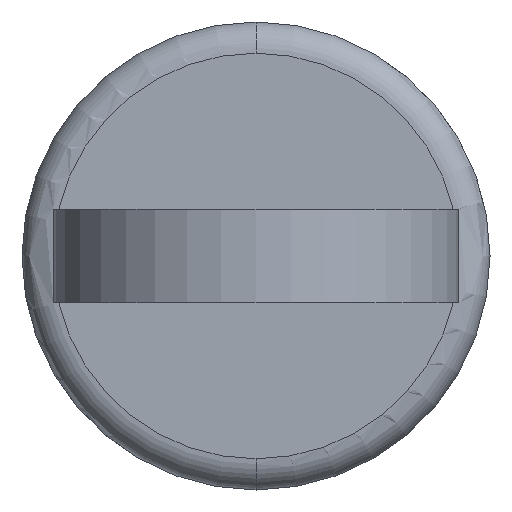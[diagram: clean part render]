
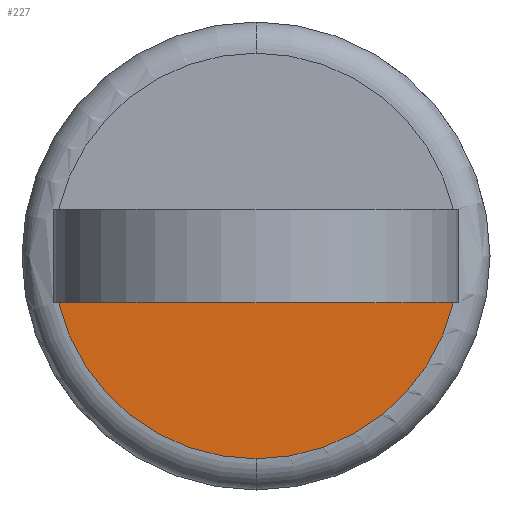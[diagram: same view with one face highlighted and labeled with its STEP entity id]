
A CAD part, front view. The second image highlights one B-rep face of the part: STEP entity #227.
In plain terms, the highlighted planar face has unit normal (0, -1, 0).
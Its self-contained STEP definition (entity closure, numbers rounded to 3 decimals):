
#22 = EDGE_CURVE ( 'NONE', #568, #260, #214, .T. ) ;
#41 = CARTESIAN_POINT ( 'NONE',  ( -6.5, 11., -1.5 ) ) ;
#43 = CARTESIAN_POINT ( 'NONE',  ( 0., 11., 0. ) ) ;
#88 = VERTEX_POINT ( 'NONE', #552 ) ;
#110 = EDGE_LOOP ( 'NONE', ( #447, #437, #394 ) ) ;
#134 = CARTESIAN_POINT ( 'NONE',  ( -6.325, 11., -1.5 ) ) ;
#214 = CIRCLE ( 'NONE', #838, 6.5 ) ;
#227 = ADVANCED_FACE ( 'NONE', ( #916 ), #745, .F. ) ;
#260 = VERTEX_POINT ( 'NONE', #476 ) ;
#273 = AXIS2_PLACEMENT_3D ( 'NONE', #43, #753, #353 ) ;
#298 = DIRECTION ( 'NONE',  ( 0., 0., 1. ) ) ;
#332 = DIRECTION ( 'NONE',  ( 0., -1., 0. ) ) ;
#353 = DIRECTION ( 'NONE',  ( 0., 0., 1. ) ) ;
#369 = EDGE_CURVE ( 'NONE', #260, #88, #518, .T. ) ;
#371 = DIRECTION ( 'NONE',  ( -1., 0., 0. ) ) ;
#394 = ORIENTED_EDGE ( 'NONE', *, *, #369, .T. ) ;
#437 = ORIENTED_EDGE ( 'NONE', *, *, #22, .T. ) ;
#447 = ORIENTED_EDGE ( 'NONE', *, *, #795, .T. ) ;
#476 = CARTESIAN_POINT ( 'NONE',  ( 0., 11., -6.5 ) ) ;
#518 = CIRCLE ( 'NONE', #837, 6.5 ) ;
#520 = LINE ( 'NONE', #41, #865 ) ;
#547 = DIRECTION ( 'NONE',  ( 0., -1., 0. ) ) ;
#552 = CARTESIAN_POINT ( 'NONE',  ( 6.325, 11., -1.5 ) ) ;
#568 = VERTEX_POINT ( 'NONE', #134 ) ;
#574 = DIRECTION ( 'NONE',  ( 0., 0., 1. ) ) ;
#745 = PLANE ( 'NONE',  #273 ) ;
#753 = DIRECTION ( 'NONE',  ( 0., 1., 0. ) ) ;
#777 = CARTESIAN_POINT ( 'NONE',  ( 0., 11., 0. ) ) ;
#795 = EDGE_CURVE ( 'NONE', #88, #568, #520, .T. ) ;
#837 = AXIS2_PLACEMENT_3D ( 'NONE', #897, #332, #574 ) ;
#838 = AXIS2_PLACEMENT_3D ( 'NONE', #777, #547, #298 ) ;
#865 = VECTOR ( 'NONE', #371, 1000. ) ;
#897 = CARTESIAN_POINT ( 'NONE',  ( 0., 11., 0. ) ) ;
#916 = FACE_OUTER_BOUND ( 'NONE', #110, .T. ) ;
